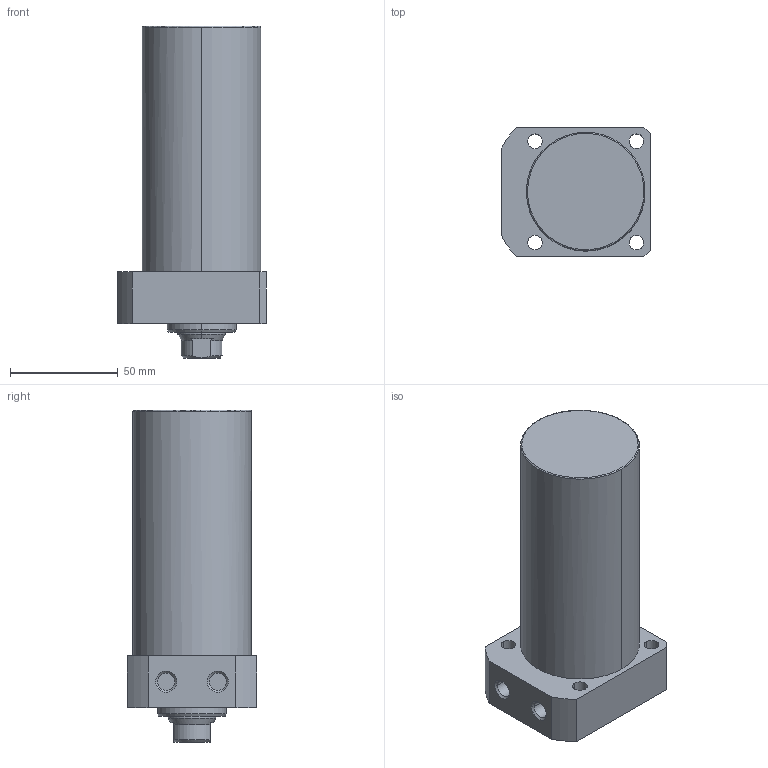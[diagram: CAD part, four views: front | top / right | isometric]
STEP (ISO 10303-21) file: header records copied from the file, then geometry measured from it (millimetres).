
FILE_DESCRIPTION((' '),'2;1');
FILE_NAME( 'TLLR-055CA-085.STEP.stp', '2025-10-24T16:34:42', (' '), ('--- Datakit www.datakit.com---'), ' Datakit CrossCadWare V2024.1 Dec 21 2023', 'Mastercam 2025', ' ');
FILE_SCHEMA(('AUTOMOTIVE_DESIGN { 1 0 10303 214 1 1 1 1 }'));
Length unit declared in the file: millimetre
Products named in the file (1): TLLR-055CA-085
Bounding box: 69 x 60 x 154 mm (x, y, z)
Volume: 368472 mm3; surface area: 37984.8 mm2
Topology: 1 solids, 1 shells, 63 faces, 177 edges, 122 vertices
Faces by surface type: cylinder 28, plane 19, cone 14, torus 2
Entity records: 2164 total; most frequent: CARTESIAN_POINT 401, DIRECTION 400, ORIENTED_EDGE 350, EDGE_CURVE 175, AXIS2_PLACEMENT_3D 169, VERTEX_POINT 122, CIRCLE 105, EDGE_LOOP 79
